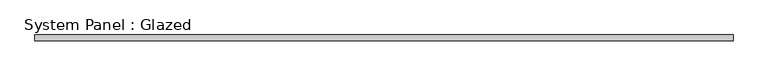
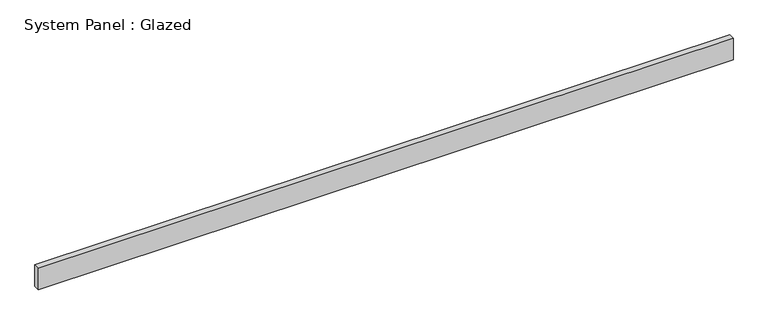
"""IFC4 building model written with IfcOpenShell, lengths in millimetres: plate geometry, System Panel : Glazed."""

from ifc_helpers import new_model, si_unit, origin, origin_with_axes, place, context, project, spatial, polyline, outline, extrude, source, transform, mapped, element, save


def system_panel_glazed_206ab21f(model_context):
    return source(origin(), model_context, "Body", "SweptSolid", [
        extrude(outline(polyline([(1504.95, 19.05), (-1504.95, 19.05), (-1504.95, 44.45), (1504.95, 44.45), (1504.95, 19.05)])), origin_with_axes(), (0.0, 0.0, 1.0), 98.3039978),
    ])


if __name__ == "__main__":
    model = new_model("IFC4")
    model_context = context("Model", 3, world=origin())
    ifc_project = project(units=[si_unit("LENGTHUNIT", "METRE", prefix="MILLI")], contexts=[model_context])
    site = spatial("IfcSite", under=ifc_project)
    building = spatial("IfcBuilding", under=site)
    placement = place(None, origin())
    system_panel_glazed_shape = system_panel_glazed_206ab21f(model_context)
    element("IfcPlate", 1, ObjectType="System Panel : Glazed", at=placement, inside=building, context=model_context, shape_type="MappedRepresentation", body=[
        mapped(system_panel_glazed_shape, transform((0.0, 0.0, 0.0), x_axis=(1.0, 0.0, 0.0), y_axis=(0.0, 1.0, 0.0), z_axis=(0.0, 0.0, 1.0))),
    ])
    save(model, "model.ifc")
